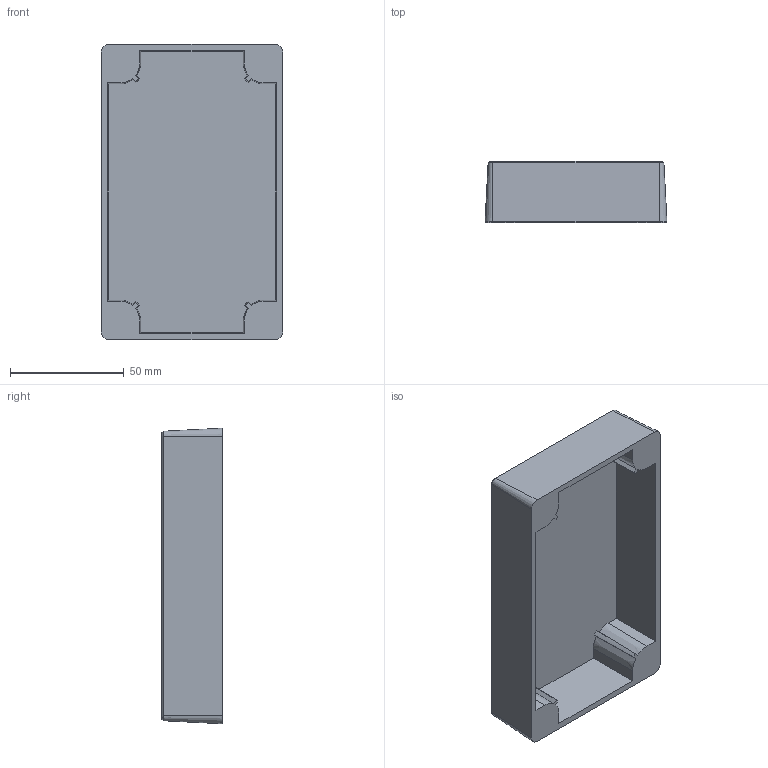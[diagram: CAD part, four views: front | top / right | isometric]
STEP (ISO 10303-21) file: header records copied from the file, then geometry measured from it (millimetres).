
FILE_DESCRIPTION (( 'STEP AP203' ), '1' );
FILE_NAME ('FIBOX_MNX10025C.STEP', '2005-06-30T06:54:17', ( ' ' ), ( ' ' ), 'SwSTEP 2.0', 'SolidWorks 2005143', '' );
FILE_SCHEMA (( 'CONFIG_CONTROL_DESIGN' ));
Length unit declared in the file: millimetre
Products named in the file (1): FIBOX_MNX10025C
Bounding box: 80 x 26.6 x 130 mm (x, y, z)
Volume: 59325.6 mm3; surface area: 41973.7 mm2
Topology: 1 solids, 1 shells, 72 faces, 184 edges, 120 vertices
Faces by surface type: plane 40, cone 20, cylinder 12
Entity records: 2277 total; most frequent: CARTESIAN_POINT 425, DIRECTION 374, ORIENTED_EDGE 368, EDGE_CURVE 184, AXIS2_PLACEMENT_3D 133, VERTEX_POINT 120, VECTOR 108, LINE 108
